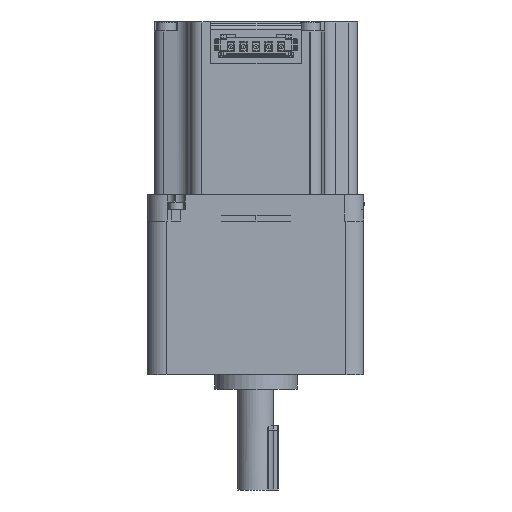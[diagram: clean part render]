
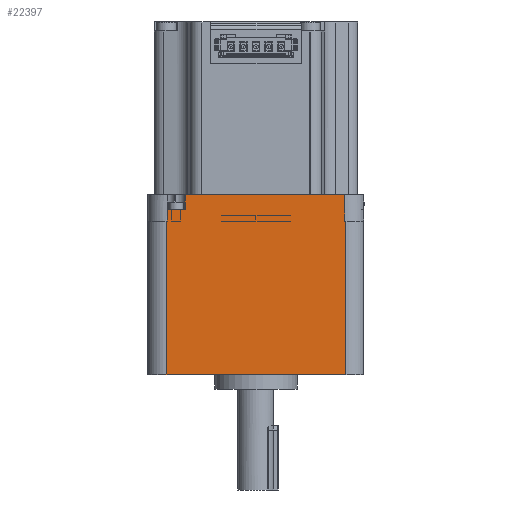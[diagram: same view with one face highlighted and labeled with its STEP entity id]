
A CAD part, front view. The second image highlights one B-rep face of the part: STEP entity #22397.
In plain terms, the highlighted planar face has unit normal (0, -1, 0).
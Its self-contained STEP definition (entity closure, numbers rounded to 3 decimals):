
#36 = VERTEX_POINT ( 'NONE', #16775 ) ;
#214 = EDGE_CURVE ( 'NONE', #291, #20641, #3305, .T. ) ;
#291 = VERTEX_POINT ( 'NONE', #13916 ) ;
#303 = CARTESIAN_POINT ( 'NONE',  ( 25., -29.996, 0. ) ) ;
#490 = VERTEX_POINT ( 'NONE', #706 ) ;
#706 = CARTESIAN_POINT ( 'NONE',  ( -24.7, -30., 3.3 ) ) ;
#1189 = EDGE_CURVE ( 'NONE', #17275, #5242, #19299, .T. ) ;
#1691 = DIRECTION ( 'NONE',  ( 0., 0., -1. ) ) ;
#2196 = VECTOR ( 'NONE', #9774, 1000. ) ;
#2365 = VERTEX_POINT ( 'NONE', #3778 ) ;
#2606 = LINE ( 'NONE', #6954, #15922 ) ;
#3096 = LINE ( 'NONE', #17410, #7175 ) ;
#3164 = VERTEX_POINT ( 'NONE', #9218 ) ;
#3305 = B_SPLINE_CURVE_WITH_KNOTS ( 'NONE', 3,
 ( #8454, #4925, #15343, #20510 ),
 .UNSPECIFIED., .F., .F.,
 ( 4, 4 ),
 ( 0.964, 1. ),
 .UNSPECIFIED. ) ;
#3571 = CARTESIAN_POINT ( 'NONE',  ( -19.7, -30., 3.3 ) ) ;
#3778 = CARTESIAN_POINT ( 'NONE',  ( -22.2, -30., 3.3 ) ) ;
#3895 = DIRECTION ( 'NONE',  ( 0., 1., 0. ) ) ;
#4690 = EDGE_LOOP ( 'NONE', ( #21283, #7942, #18914, #19809, #5866, #17823, #7144, #21977, #18027, #14782, #10472 ) ) ;
#4829 = VECTOR ( 'NONE', #17439, 1000. ) ;
#4925 = CARTESIAN_POINT ( 'NONE',  ( -24.9, -29.997, 0. ) ) ;
#5242 = VERTEX_POINT ( 'NONE', #9811 ) ;
#5406 = CARTESIAN_POINT ( 'NONE',  ( 24.8, -30., 0. ) ) ;
#5473 = EDGE_CURVE ( 'NONE', #36, #20748, #21943, .T. ) ;
#5700 = EDGE_CURVE ( 'NONE', #5804, #291, #18862, .T. ) ;
#5804 = VERTEX_POINT ( 'NONE', #18382 ) ;
#5866 = ORIENTED_EDGE ( 'NONE', *, *, #19078, .T. ) ;
#6108 = CARTESIAN_POINT ( 'NONE',  ( -25., -30., -42.7 ) ) ;
#6954 = CARTESIAN_POINT ( 'NONE',  ( -24.7, -30., 7.3 ) ) ;
#7102 = CARTESIAN_POINT ( 'NONE',  ( 24.7, -30., 0. ) ) ;
#7144 = ORIENTED_EDGE ( 'NONE', *, *, #5700, .F. ) ;
#7152 = CARTESIAN_POINT ( 'NONE',  ( -24.7, -30., 0. ) ) ;
#7175 = VECTOR ( 'NONE', #8856, 1000. ) ;
#7859 = DIRECTION ( 'NONE',  ( 0., 0., 1. ) ) ;
#7942 = ORIENTED_EDGE ( 'NONE', *, *, #17532, .F. ) ;
#8016 = CARTESIAN_POINT ( 'NONE',  ( -25., -30., -42.7 ) ) ;
#8248 = LINE ( 'NONE', #13833, #8790 ) ;
#8454 = CARTESIAN_POINT ( 'NONE',  ( -25., -29.996, 0. ) ) ;
#8733 = DIRECTION ( 'NONE',  ( 0., 0., -1. ) ) ;
#8790 = VECTOR ( 'NONE', #1691, 1000. ) ;
#8856 = DIRECTION ( 'NONE',  ( 1., 0., 0. ) ) ;
#9218 = CARTESIAN_POINT ( 'NONE',  ( 25., -30., -42.7 ) ) ;
#9275 = VECTOR ( 'NONE', #10839, 1000. ) ;
#9697 = VECTOR ( 'NONE', #7859, 1000. ) ;
#9774 = DIRECTION ( 'NONE',  ( 1., 0., 0. ) ) ;
#9811 = CARTESIAN_POINT ( 'NONE',  ( 24.7, -30., 7.3 ) ) ;
#10295 = CARTESIAN_POINT ( 'NONE',  ( -24.7, -30., 7.3 ) ) ;
#10472 = ORIENTED_EDGE ( 'NONE', *, *, #21152, .F. ) ;
#10716 = CARTESIAN_POINT ( 'NONE',  ( 24.9, -29.997, 0. ) ) ;
#10839 = DIRECTION ( 'NONE',  ( 0., 0., 1. ) ) ;
#10887 = AXIS2_PLACEMENT_3D ( 'NONE', #19396, #3895, #16034 ) ;
#11463 = LINE ( 'NONE', #8016, #2196 ) ;
#11602 = DIRECTION ( 'NONE',  ( 0., 0., 1. ) ) ;
#12005 = VECTOR ( 'NONE', #11602, 1000. ) ;
#12591 = CARTESIAN_POINT ( 'NONE',  ( 25., -30., -42.7 ) ) ;
#13041 = EDGE_CURVE ( 'NONE', #3164, #20748, #13365, .T. ) ;
#13050 = LINE ( 'NONE', #15694, #4829 ) ;
#13356 = CARTESIAN_POINT ( 'NONE',  ( -19.7, -30., 3.3 ) ) ;
#13365 = LINE ( 'NONE', #12591, #9275 ) ;
#13572 = VERTEX_POINT ( 'NONE', #3571 ) ;
#13833 = CARTESIAN_POINT ( 'NONE',  ( 24.7, -30., 7.3 ) ) ;
#13916 = CARTESIAN_POINT ( 'NONE',  ( -25., -29.996, 0. ) ) ;
#14136 = EDGE_CURVE ( 'NONE', #2365, #13572, #13050, .T. ) ;
#14295 = PLANE ( 'NONE',  #10887 ) ;
#14446 = CARTESIAN_POINT ( 'NONE',  ( 25., -29.996, 0. ) ) ;
#14782 = ORIENTED_EDGE ( 'NONE', *, *, #5473, .F. ) ;
#14962 = LINE ( 'NONE', #13356, #12005 ) ;
#15343 = CARTESIAN_POINT ( 'NONE',  ( -24.8, -30., 0. ) ) ;
#15456 = EDGE_CURVE ( 'NONE', #490, #2365, #3096, .T. ) ;
#15694 = CARTESIAN_POINT ( 'NONE',  ( -19.7, -30., 3.3 ) ) ;
#15922 = VECTOR ( 'NONE', #8733, 1000. ) ;
#16034 = DIRECTION ( 'NONE',  ( 0., 0., 1. ) ) ;
#16775 = CARTESIAN_POINT ( 'NONE',  ( 24.7, -30., 0. ) ) ;
#17275 = VERTEX_POINT ( 'NONE', #21993 ) ;
#17410 = CARTESIAN_POINT ( 'NONE',  ( -19.7, -30., 3.3 ) ) ;
#17439 = DIRECTION ( 'NONE',  ( 1., 0., 0. ) ) ;
#17508 = EDGE_CURVE ( 'NONE', #5804, #3164, #11463, .T. ) ;
#17532 = EDGE_CURVE ( 'NONE', #13572, #17275, #14962, .T. ) ;
#17823 = ORIENTED_EDGE ( 'NONE', *, *, #214, .F. ) ;
#18027 = ORIENTED_EDGE ( 'NONE', *, *, #13041, .T. ) ;
#18382 = CARTESIAN_POINT ( 'NONE',  ( -25., -30., -42.7 ) ) ;
#18862 = LINE ( 'NONE', #6108, #9697 ) ;
#18914 = ORIENTED_EDGE ( 'NONE', *, *, #14136, .F. ) ;
#19078 = EDGE_CURVE ( 'NONE', #490, #20641, #2606, .T. ) ;
#19299 = LINE ( 'NONE', #10295, #22286 ) ;
#19396 = CARTESIAN_POINT ( 'NONE',  ( -24.7, -30., 7.3 ) ) ;
#19809 = ORIENTED_EDGE ( 'NONE', *, *, #15456, .F. ) ;
#20510 = CARTESIAN_POINT ( 'NONE',  ( -24.7, -30., 0. ) ) ;
#20588 = DIRECTION ( 'NONE',  ( 1., 0., 0. ) ) ;
#20641 = VERTEX_POINT ( 'NONE', #7152 ) ;
#20748 = VERTEX_POINT ( 'NONE', #14446 ) ;
#21152 = EDGE_CURVE ( 'NONE', #5242, #36, #8248, .T. ) ;
#21283 = ORIENTED_EDGE ( 'NONE', *, *, #1189, .F. ) ;
#21943 = B_SPLINE_CURVE_WITH_KNOTS ( 'NONE', 3,
 ( #7102, #5406, #10716, #303 ),
 .UNSPECIFIED., .F., .F.,
 ( 4, 4 ),
 ( 0., 0.036 ),
 .UNSPECIFIED. ) ;
#21963 = FACE_OUTER_BOUND ( 'NONE', #4690, .T. ) ;
#21977 = ORIENTED_EDGE ( 'NONE', *, *, #17508, .T. ) ;
#21993 = CARTESIAN_POINT ( 'NONE',  ( -19.7, -30., 7.3 ) ) ;
#22286 = VECTOR ( 'NONE', #20588, 1000. ) ;
#22397 = ADVANCED_FACE ( 'NONE', ( #21963 ), #14295, .F. ) ;
